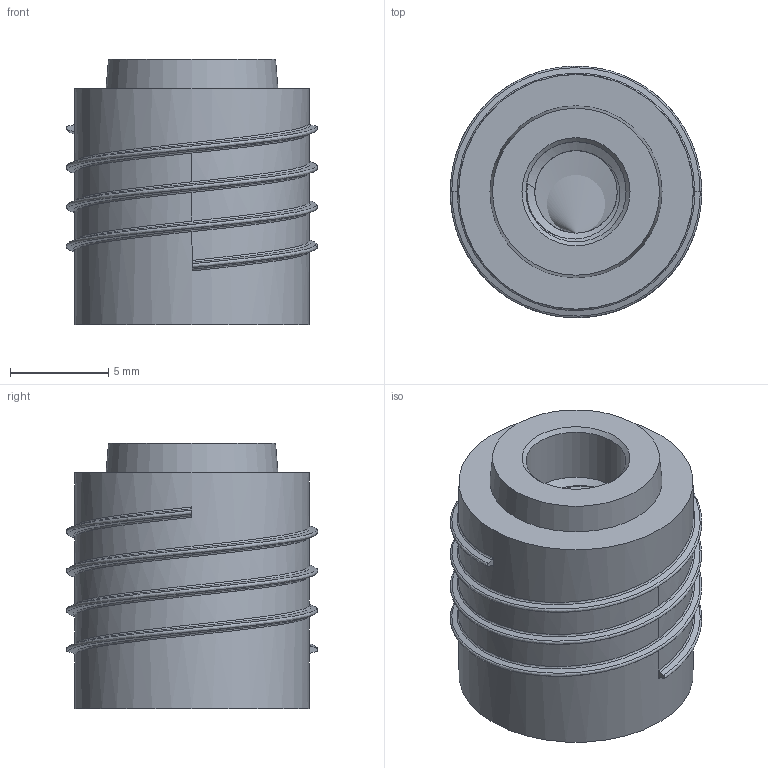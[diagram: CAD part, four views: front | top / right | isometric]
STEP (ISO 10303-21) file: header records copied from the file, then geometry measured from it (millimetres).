
FILE_DESCRIPTION(/* description */ (''),/* implementation_level */ '2;1');
FILE_NAME(/* name */ 'C:\Users\matthiask.LAMELLONET\Desktop\Invis_Mx2_Eindrehmutter_14mm.stp',/* time_stamp */ '2021-07-08T08:56:36+02:00',/* author */ ('matthiask'),/* organization */ (''),/* preprocessor_version */ 'ST-DEVELOPER v18',/* originating_system */ 'Autodesk Inventor 2020',/* authorisation */ '');
FILE_SCHEMA (('AUTOMOTIVE_DESIGN { 1 0 10303 214 3 1 1 }'));
Length unit declared in the file: millimetre
Products named in the file (1): Eindrehmutter kurz
Bounding box: 12.8 x 12.8 x 13.5 mm (x, y, z)
Volume: 1126.1 mm3; surface area: 1071.7 mm2
Topology: 1 solids, 1 shells, 44 faces, 119 edges, 79 vertices
Faces by surface type: cylinder 19, bspline 13, plane 8, cone 4
Full cylindrical faces by diameter (mm): 4.2 x13, 5.1 x1, 11.95 x3
Entity records: 5046 total; most frequent: CARTESIAN_POINT 3998, ORIENTED_EDGE 238, DIRECTION 164, EDGE_CURVE 119, VERTEX_POINT 79, AXIS2_PLACEMENT_3D 64, B_SPLINE_CURVE_WITH_KNOTS 51, EDGE_LOOP 48
